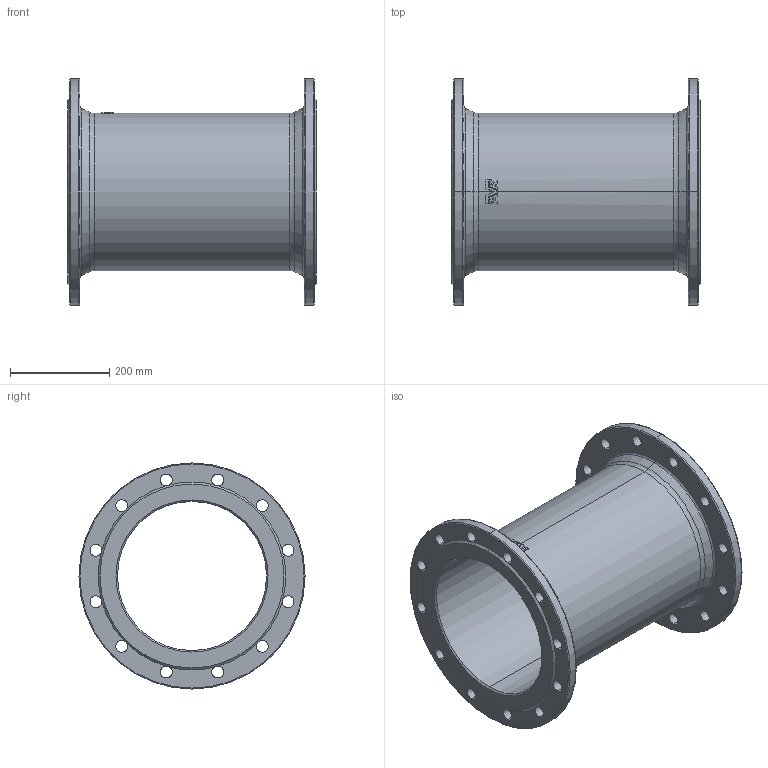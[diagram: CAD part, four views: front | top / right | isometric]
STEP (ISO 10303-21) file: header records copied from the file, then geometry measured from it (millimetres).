
FILE_DESCRIPTION (( 'STEP AP203' ), '1' );
FILE_NAME ('O_712_4810_DN300_0X_REV01.step', '2021-12-01T10:48:34', ( '' ), ( '' ), 'SwSTEP 2.0', 'SolidWorks 2019', '' );
FILE_SCHEMA (( 'CONFIG_CONTROL_DESIGN' ));
Length unit declared in the file: millimetre
Products named in the file (1): O_712_4810_DN300_0X_REV01
Bounding box: 500 x 455 x 455 mm (x, y, z)
Volume: 7834744.2 mm3; surface area: 1324212.4 mm2
Topology: 1 solids, 1 shells, 155 faces, 438 edges, 268 vertices
Faces by surface type: cylinder 61, plane 49, bspline 17, torus 16, cone 12
Entity records: 5891 total; most frequent: CARTESIAN_POINT 1596, DIRECTION 967, ORIENTED_EDGE 876, EDGE_CURVE 438, AXIS2_PLACEMENT_3D 426, CIRCLE 287, VERTEX_POINT 268, EDGE_LOOP 188
